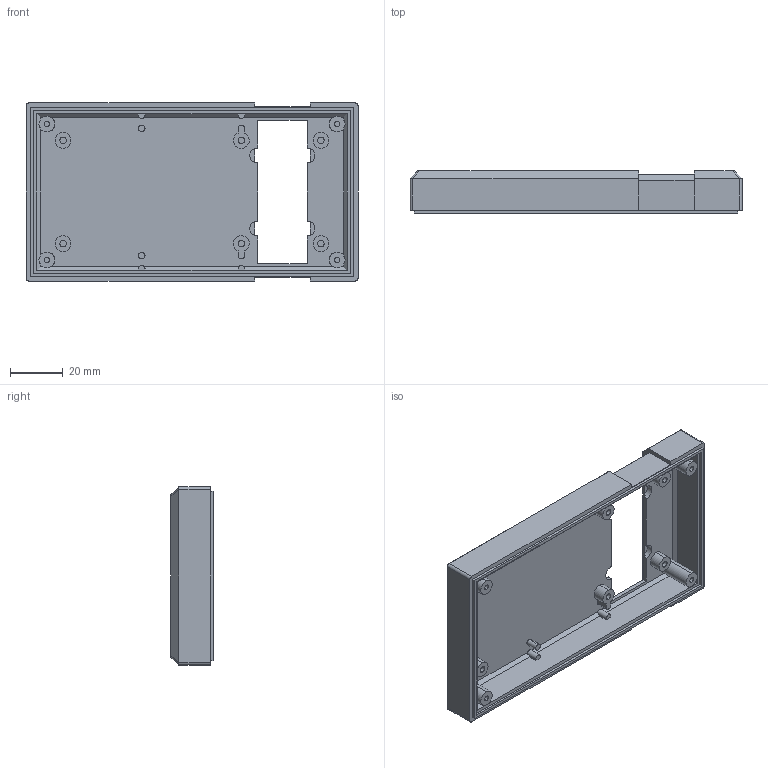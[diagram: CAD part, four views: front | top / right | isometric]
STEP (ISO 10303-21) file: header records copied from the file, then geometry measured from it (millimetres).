
FILE_DESCRIPTION (( 'STEP AP214' ), '1' );
FILE_NAME ('Tapa PP32.STEP', '2016-10-07T08:11:30', ( 'aaa' ), ( '' ), 'SwSTEP 2.0', 'SolidWorks 2013', '' );
FILE_SCHEMA (( 'AUTOMOTIVE_DESIGN' ));
Length unit declared in the file: millimetre
Products named in the file (1): Tapa PP32
Bounding box: 125.5 x 16 x 67.3 mm (x, y, z)
Volume: 39742.3 mm3; surface area: 27134.2 mm2
Topology: 1 solids, 1 shells, 174 faces, 452 edges, 300 vertices
Faces by surface type: plane 102, cylinder 72
Entity records: 5386 total; most frequent: CARTESIAN_POINT 1035, DIRECTION 910, ORIENTED_EDGE 904, EDGE_CURVE 452, AXIS2_PLACEMENT_3D 319, VERTEX_POINT 300, LINE 272, VECTOR 272
